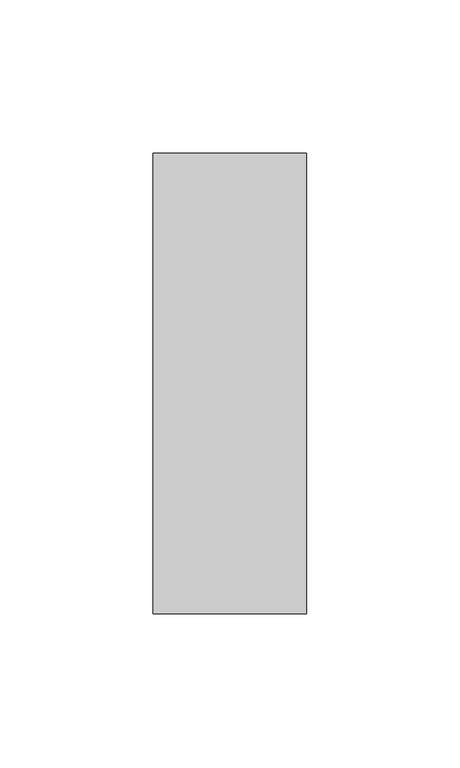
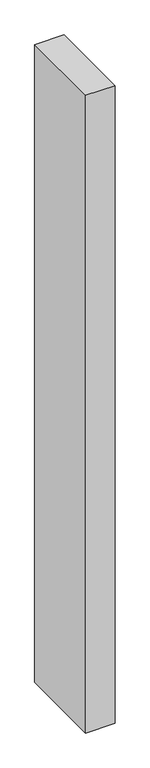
"""IFC4 building model written with IfcOpenShell, lengths in millimetres: member geometry, Прямоугольный импост : 50 x 150 мм."""

import ifcopenshell
import ifcopenshell.guid

model = None  # the IFC model being written
_history = None  # IfcOwnerHistory: only IFC2X3 demands one
_inside = {}  # id of a spatial element -> (the spatial element, [elements in it])
_under = {}  # id of a project, library or spatial element -> (it, [spatial elements below it])
_declared = {}  # id of a project -> (the project, [libraries it declares])
_typed = {}  # id of a type object -> (the type object, [elements of that type])
_made_of = {}  # id of a material, layer set ... -> (it, [elements and type objects made of it])


def new_model(schema):
    """Start an empty IFC model of exactly this schema.

    Asked for "IFC4X3", IfcOpenShell would pick the latest addendum, in which some entities
    have other attributes; the version numbers below select the first issue.
    IFC2X3 requires an IfcOwnerHistory on every rooted entity: one is made here for all.
    """
    global model, _history
    if schema == "IFC4X3":
        model = ifcopenshell.file(schema_version=(4, 3, 0, 0))
    else:
        model = ifcopenshell.file(schema=schema)
    _inside.clear()
    _under.clear()
    _declared.clear()
    _typed.clear()
    _made_of.clear()
    _history = None
    if model.schema == "IFC2X3":
        org = make("IfcOrganization", Name="unknown")
        user = make(
            "IfcPersonAndOrganization",
            ThePerson=make("IfcPerson", FamilyName="unknown"),
            TheOrganization=org,
        )
        app = make(
            "IfcApplication",
            ApplicationDeveloper=org,
            Version="unknown",
            ApplicationFullName="unknown",
            ApplicationIdentifier="unknown",
        )
        _history = make(
            "IfcOwnerHistory",
            OwningUser=user,
            OwningApplication=app,
            ChangeAction="ADDED",
            CreationDate=0,
        )
    return model


def make(cls, **values):
    """One entity of the class cls with the attributes given. An attribute that is None is left unset."""
    return model.create_entity(
        cls, **{name: value for name, value in values.items() if value is not None}
    )


def rooted(cls, **values):
    """An entity with a GlobalId (a new one), such as an element, a storey or a relation."""
    return make(cls, GlobalId=ifcopenshell.guid.new(), OwnerHistory=_history, **values)


def si_unit(unit_type, name, prefix=None):
    """IfcSIUnit, for example si_unit("LENGTHUNIT", "METRE", prefix="MILLI")."""
    return make("IfcSIUnit", UnitType=unit_type, Prefix=prefix, Name=name)


def assignment(units):
    """IfcUnitAssignment: the units of a project."""
    return None if units is None else make("IfcUnitAssignment", Units=units)


def point(xyz):
    """IfcCartesianPoint."""
    return None if xyz is None else make("IfcCartesianPoint", Coordinates=xyz)


def direction(xyz):
    """IfcDirection."""
    return None if xyz is None else make("IfcDirection", DirectionRatios=xyz)


def frame(location, z_axis=None, x_axis=None):
    """IfcAxis2Placement3D, a coordinate frame: its origin and axes. An axis left out is left unset."""
    return make(
        "IfcAxis2Placement3D",
        Location=point(location),
        Axis=direction(z_axis),
        RefDirection=direction(x_axis),
    )


def origin():
    """The frame at (0, 0, 0) with its axes left unset."""
    return frame((0.0, 0.0, 0.0))


def place(relative_to, where):
    """IfcLocalPlacement: puts the frame where relative to a parent placement (None: the world)."""
    return make(
        "IfcLocalPlacement", PlacementRelTo=relative_to, RelativePlacement=where
    )


def context(
    kind, dimensions, precision=None, world=None, true_north=None, identifier=None
):
    """IfcGeometricRepresentationContext, for example the 3D "Model" context."""
    return make(
        "IfcGeometricRepresentationContext",
        ContextIdentifier=identifier,
        ContextType=kind,
        CoordinateSpaceDimension=dimensions,
        Precision=precision,
        WorldCoordinateSystem=world,
        TrueNorth=true_north,
    )


def project(units=None, contexts=None):
    """IfcProject with its units and contexts."""
    return rooted(
        "IfcProject",
        Name="project",
        RepresentationContexts=contexts,
        UnitsInContext=assignment(units),
    )


def spatial(cls, under=None, at=None, **own):
    """A site, building, storey or space (cls), placed at a placement, below another one or the project."""
    s = rooted(cls, ObjectPlacement=at, **own)
    if under is not None:
        _under.setdefault(under.id(), (under, []))[1].append(s)
    return s


def polyline(points):
    """IfcPolyline through the points."""
    return make("IfcPolyline", Points=[point(p) for p in points])


def outline(outer, holes=None, kind="AREA"):
    """IfcArbitraryClosedProfileDef: a profile drawn as a closed curve; with holes, ...WithVoids."""
    if holes is None:
        return make("IfcArbitraryClosedProfileDef", ProfileType=kind, OuterCurve=outer)
    return make(
        "IfcArbitraryProfileDefWithVoids",
        ProfileType=kind,
        OuterCurve=outer,
        InnerCurves=holes,
    )


def extrude(swept, where, along, depth):
    """IfcExtrudedAreaSolid: the profile swept, set in the frame where, extruded along a direction by depth."""
    return make(
        "IfcExtrudedAreaSolid",
        SweptArea=swept,
        Position=where,
        ExtrudedDirection=direction(along),
        Depth=depth,
    )


def shape(context_of_items, identifier, shape_type, items):
    """IfcShapeRepresentation: the items that make up one representation, for example the "Body"."""
    return make(
        "IfcShapeRepresentation",
        ContextOfItems=context_of_items,
        RepresentationIdentifier=identifier,
        RepresentationType=shape_type,
        Items=items,
    )


def source(mapping_origin, context_of_items, identifier, shape_type, items):
    """IfcRepresentationMap: a shape defined once, which mapped items show again and again."""
    return make(
        "IfcRepresentationMap",
        MappingOrigin=mapping_origin,
        MappedRepresentation=shape(context_of_items, identifier, shape_type, items),
    )


def transform(
    local_origin,
    x_axis=None,
    y_axis=None,
    z_axis=None,
    scale=None,
    scale2=None,
    scale3=None,
    uniform=True,
):
    """IfcCartesianTransformationOperator3D, or its non-uniform kind. x_axis, y_axis, z_axis: its Axis1, 2, 3."""
    if uniform:
        return make(
            "IfcCartesianTransformationOperator3D",
            Axis1=direction(x_axis),
            Axis2=direction(y_axis),
            LocalOrigin=point(local_origin),
            Scale=scale,
            Axis3=direction(z_axis),
        )
    return make(
        "IfcCartesianTransformationOperator3DnonUniform",
        Axis1=direction(x_axis),
        Axis2=direction(y_axis),
        LocalOrigin=point(local_origin),
        Scale=scale,
        Axis3=direction(z_axis),
        Scale2=scale2,
        Scale3=scale3,
    )


def mapped(mapping_source, mapping_target):
    """IfcMappedItem: shows the shape of a source again, moved by a transform."""
    return make(
        "IfcMappedItem", MappingSource=mapping_source, MappingTarget=mapping_target
    )


def made_of(thing, what):
    """Note that an element or type object is made of a material, layer set ...; save() writes the relation."""
    if what is not None:
        _made_of.setdefault(what.id(), (what, []))[1].append(thing)
    return thing


def element(
    cls,
    number,
    at=None,
    inside=None,
    cuts=None,
    type_object=None,
    material=None,
    context=None,
    identifier="Body",
    shape_type=None,
    held_by="IfcProductDefinitionShape",
    body=None,
    shapes=None,
    **own,
):
    """One element of the class cls, such as IfcWall. Its Tag is "e" and its number.

    at: its placement. inside: the storey or other place that contains it. cuts: it is an
    opening in that element (IfcRelVoidsElement). A single representation is given by context,
    identifier, shape_type and body (its items); several are given by shapes. held_by: the class
    of the entity that holds the representations. save() writes the other relations.
    """
    e = rooted(cls, Tag="e%d" % number, ObjectPlacement=at, **own)
    if body is not None:
        shapes = [shape(context, identifier, shape_type, body)]
    if shapes is not None:
        e.Representation = make(held_by, Representations=shapes)
    if inside is not None:
        _inside.setdefault(inside.id(), (inside, []))[1].append(e)
    if cuts is not None:
        rooted(
            "IfcRelVoidsElement", RelatingBuildingElement=cuts, RelatedOpeningElement=e
        )
    if type_object is not None:
        _typed.setdefault(type_object.id(), (type_object, []))[1].append(e)
    return made_of(e, material)


def aggregate(whole, parts):
    """IfcRelAggregates: a whole, such as a stair, and the parts it consists of."""
    return rooted("IfcRelAggregates", RelatingObject=whole, RelatedObjects=parts)


def save(model, path):
    """Write the relations noted so far, then the file.

    IfcRelAggregates (storeys below a building ...), IfcRelContainedInSpatialStructure (elements
    in a storey), IfcRelDefinesByType, IfcRelAssociatesMaterial and IfcRelDeclares: one each for
    every whole, place, type object, material and project.
    """
    for whole, parts in _under.values():
        aggregate(whole, parts)
    for where, things in _inside.values():
        rooted(
            "IfcRelContainedInSpatialStructure",
            RelatedElements=things,
            RelatingStructure=where,
        )
    for kind, things in _typed.values():
        rooted("IfcRelDefinesByType", RelatedObjects=things, RelatingType=kind)
    for what, things in _made_of.values():
        rooted("IfcRelAssociatesMaterial", RelatedObjects=things, RelatingMaterial=what)
    for by, libraries in _declared.values():
        rooted("IfcRelDeclares", RelatingContext=by, RelatedDefinitions=libraries)
    model.write(path)


def member_5bec7f67(model_context):
    return source(origin(), model_context, "Body", "SweptSolid", [
        extrude(outline(polyline([(25.0, 75.0), (25.0, -75.0), (-25.0, -75.0), (-25.0, 75.0), (25.0, 75.0)])), frame((0.0, 0.0, -1143.2617374), z_axis=(0.0, 0.0, 1.0), x_axis=(1.0, 0.0, 0.0)), (0.0, 0.0, 1.0), 1143.2617374),
    ])


if __name__ == "__main__":
    model = new_model("IFC4")
    model_context = context("Model", 3, world=origin())
    ifc_project = project(units=[si_unit("LENGTHUNIT", "METRE", prefix="MILLI")], contexts=[model_context])
    site = spatial("IfcSite", under=ifc_project)
    building = spatial("IfcBuilding", under=site)
    placement = place(None, origin())
    member_shape = member_5bec7f67(model_context)
    element("IfcMember", 1, ObjectType="Прямоугольный импост : 50 x 150 мм", at=placement, inside=building, context=model_context, shape_type="MappedRepresentation", body=[
        mapped(member_shape, transform((0.0, 0.0, 0.0), x_axis=(1.0, 0.0, 0.0), y_axis=(0.0, 1.0, 0.0), z_axis=(0.0, 0.0, 1.0))),
    ])
    save(model, "model.ifc")
